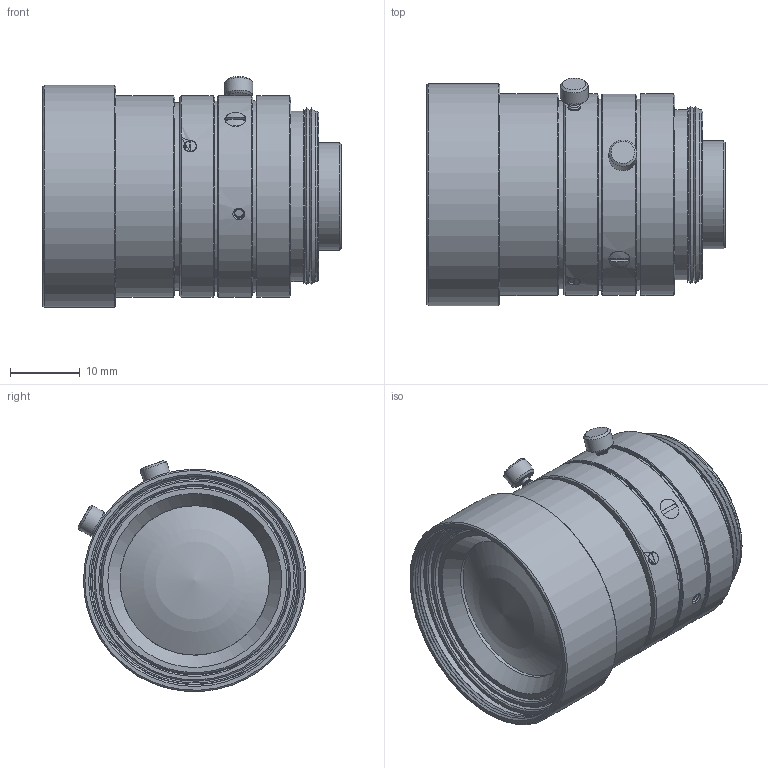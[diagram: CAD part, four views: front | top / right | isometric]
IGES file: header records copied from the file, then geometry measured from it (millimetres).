
Global section: file name: 153-13653_Objektiv LOC-08-HD-30.5x0,5; native system: Autodesk Inventor 2018; preprocessor: unknown; author: S.S.; date: 20200331.101441; units: millimetre
Bounding box: 42.92 x 32.78 x 33.24 mm (x, y, z)
Volume: 23408.9 mm3; surface area: 10007.9 mm2
Topology: 2 solids, 7 shells, 242 faces, 648 edges, 447 vertices
Faces by surface type: bspline 242
